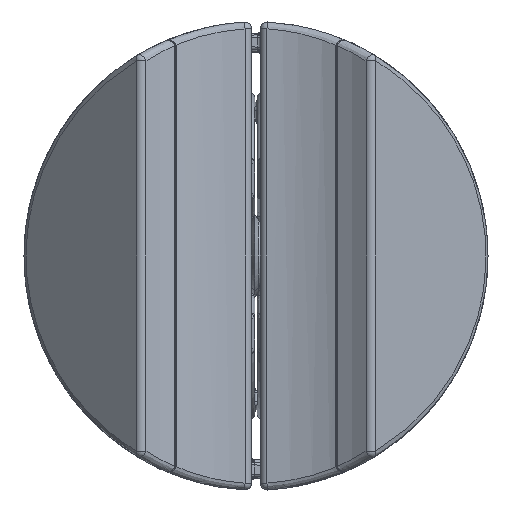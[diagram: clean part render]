
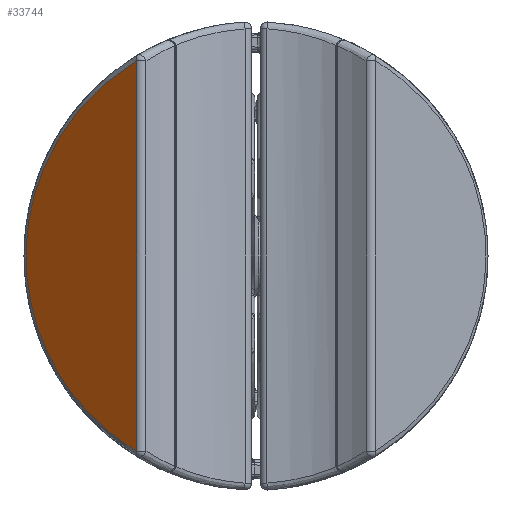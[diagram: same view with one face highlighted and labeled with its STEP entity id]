
A CAD part, front view. The second image highlights one B-rep face of the part: STEP entity #33744.
In plain terms, the highlighted planar face has unit normal (-0.707, -0.707, 0) as drawn and (0, -0.707, -0.707) by its records, which use the part's own axes.
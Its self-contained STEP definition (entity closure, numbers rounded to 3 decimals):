
#4146 = EDGE_LOOP ( 'NONE', ( #26960, #26961 ) ) ;
#7431 = AXIS2_PLACEMENT_3D ( 'NONE', #13989, #13995, #13996 ) ;
#9487 = CARTESIAN_POINT ( 'NONE',  ( -14.15, 0.34, -8.34 ) ) ;
#9568 = CARTESIAN_POINT ( 'NONE',  ( 14.15, 0.34, -8.34 ) ) ;
#11356 = FACE_OUTER_BOUND ( 'NONE', #4146, .T. ) ;
#13989 = CARTESIAN_POINT ( 'NONE',  ( -16.993, 0., -8. ) ) ;
#13993 = PLANE ( 'NONE',  #7431 ) ;
#13995 = DIRECTION ( 'NONE',  ( 0., 0.707, 0.707 ) ) ;
#13996 = DIRECTION ( 'NONE',  ( 0., -0.707, 0.707 ) ) ;
#15315 =( BOUNDED_CURVE ( )  B_SPLINE_CURVE ( 3, ( #31238, #31233, #31251, #31252 ),
 .UNSPECIFIED., .F., .F. ) 
 B_SPLINE_CURVE_WITH_KNOTS ( ( 4, 4 ),
 ( 2.111, 4.172 ),
 .UNSPECIFIED. ) 
 CURVE ( )  GEOMETRIC_REPRESENTATION_ITEM ( )  RATIONAL_B_SPLINE_CURVE ( ( 1., 0.676, 0.676, 1. ) ) 
 REPRESENTATION_ITEM ( '' )  );
#26960 = ORIENTED_EDGE ( 'NONE', *, *, #28985, .T. ) ;
#26961 = ORIENTED_EDGE ( 'NONE', *, *, #28986, .T. ) ;
#28157 = VERTEX_POINT ( 'NONE', #9487 ) ;
#28238 = VERTEX_POINT ( 'NONE', #9568 ) ;
#28985 = EDGE_CURVE ( 'NONE', #28157, #28238, #15315, .T. ) ;
#28986 = EDGE_CURVE ( 'NONE', #28238, #28157, #29797, .T. ) ;
#29797 = LINE ( 'NONE', #31249, #29809 ) ;
#29809 = VECTOR ( 'NONE', #31253, 1000. ) ;
#31233 = CARTESIAN_POINT ( 'NONE',  ( -6.975, 12.304, -20.304 ) ) ;
#31238 = CARTESIAN_POINT ( 'NONE',  ( -14.15, 0.34, -8.34 ) ) ;
#31249 = CARTESIAN_POINT ( 'NONE',  ( -16.993, 0.34, -8.34 ) ) ;
#31251 = CARTESIAN_POINT ( 'NONE',  ( 6.975, 12.304, -20.304 ) ) ;
#31252 = CARTESIAN_POINT ( 'NONE',  ( 14.15, 0.34, -8.34 ) ) ;
#31253 = DIRECTION ( 'NONE',  ( -1., 0., 0. ) ) ;
#33744 = ADVANCED_FACE ( 'NONE', ( #11356 ), #13993, .F. ) ;
